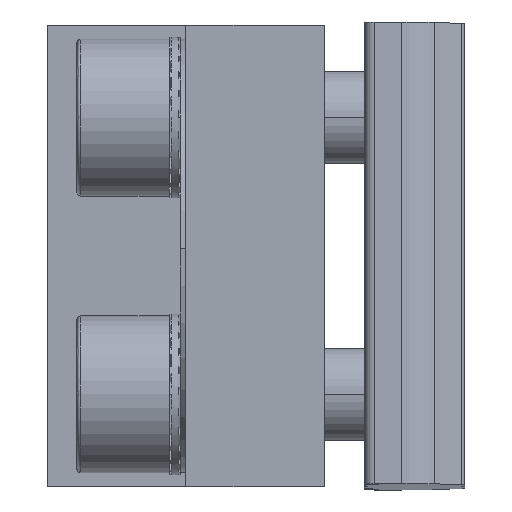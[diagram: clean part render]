
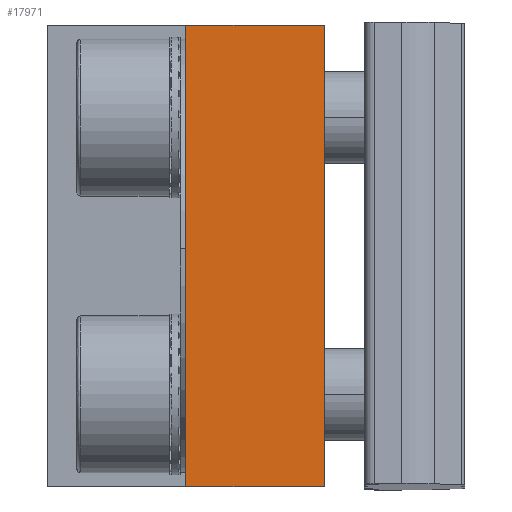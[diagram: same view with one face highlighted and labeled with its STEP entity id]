
A CAD part, front view. The second image highlights one B-rep face of the part: STEP entity #17971.
In plain terms, the highlighted planar face has unit normal (0, -1, 0).
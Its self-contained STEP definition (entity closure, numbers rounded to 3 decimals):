
#1294 = EDGE_CURVE ( 'NONE', #9230, #23817, #6104, .T. ) ;
#2386 = CARTESIAN_POINT ( 'NONE',  ( 11.34, 4.586, 13.924 ) ) ;
#2427 = CARTESIAN_POINT ( 'NONE',  ( 3.84, 4.586, -11.076 ) ) ;
#3271 = EDGE_CURVE ( 'NONE', #8625, #23817, #19270, .T. ) ;
#4350 = CARTESIAN_POINT ( 'NONE',  ( 7.59, 4.586, 13.924 ) ) ;
#4915 = EDGE_LOOP ( 'NONE', ( #9555, #19351, #19534, #8231 ) ) ;
#5247 = CARTESIAN_POINT ( 'NONE',  ( 11.34, 4.586, 1.424 ) ) ;
#5657 = DIRECTION ( 'NONE',  ( -1., 0., 0. ) ) ;
#6104 = LINE ( 'NONE', #12148, #19106 ) ;
#6600 = DIRECTION ( 'NONE',  ( -1., 0., 0. ) ) ;
#6678 = VECTOR ( 'NONE', #5657, 1000. ) ;
#7672 = FACE_OUTER_BOUND ( 'NONE', #4915, .T. ) ;
#8231 = ORIENTED_EDGE ( 'NONE', *, *, #3271, .F. ) ;
#8625 = VERTEX_POINT ( 'NONE', #13118 ) ;
#8697 = VERTEX_POINT ( 'NONE', #2386 ) ;
#9230 = VERTEX_POINT ( 'NONE', #14554 ) ;
#9555 = ORIENTED_EDGE ( 'NONE', *, *, #12951, .T. ) ;
#11029 = DIRECTION ( 'NONE',  ( 0., 0., 1. ) ) ;
#11578 = CARTESIAN_POINT ( 'NONE',  ( 3.84, 4.586, -11.076 ) ) ;
#11770 = DIRECTION ( 'NONE',  ( 0., 0., -1. ) ) ;
#12148 = CARTESIAN_POINT ( 'NONE',  ( 3.84, 4.586, 1.424 ) ) ;
#12951 = EDGE_CURVE ( 'NONE', #8625, #8697, #24200, .T. ) ;
#13118 = CARTESIAN_POINT ( 'NONE',  ( 11.34, 4.586, -11.076 ) ) ;
#13600 = VECTOR ( 'NONE', #6600, 1000. ) ;
#14554 = CARTESIAN_POINT ( 'NONE',  ( 3.84, 4.586, 13.924 ) ) ;
#14692 = EDGE_CURVE ( 'NONE', #8697, #9230, #23926, .T. ) ;
#15466 = VECTOR ( 'NONE', #11029, 1000. ) ;
#17971 = ADVANCED_FACE ( 'NONE', ( #7672 ), #19286, .T. ) ;
#19106 = VECTOR ( 'NONE', #11770, 1000. ) ;
#19270 = LINE ( 'NONE', #22963, #6678 ) ;
#19286 = PLANE ( 'NONE',  #21006 ) ;
#19351 = ORIENTED_EDGE ( 'NONE', *, *, #14692, .T. ) ;
#19534 = ORIENTED_EDGE ( 'NONE', *, *, #1294, .T. ) ;
#21006 = AXIS2_PLACEMENT_3D ( 'NONE', #11578, #22975, #23466 ) ;
#22963 = CARTESIAN_POINT ( 'NONE',  ( 3.84, 4.586, -11.076 ) ) ;
#22975 = DIRECTION ( 'NONE',  ( 0., -1., 0. ) ) ;
#23466 = DIRECTION ( 'NONE',  ( 1., 0., 0. ) ) ;
#23817 = VERTEX_POINT ( 'NONE', #2427 ) ;
#23926 = LINE ( 'NONE', #4350, #13600 ) ;
#24200 = LINE ( 'NONE', #5247, #15466 ) ;
